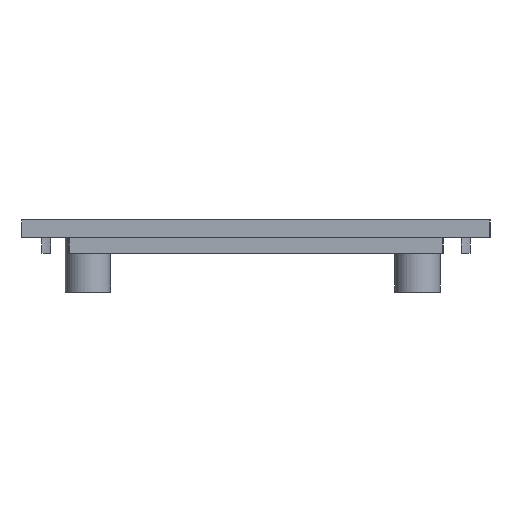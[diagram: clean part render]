
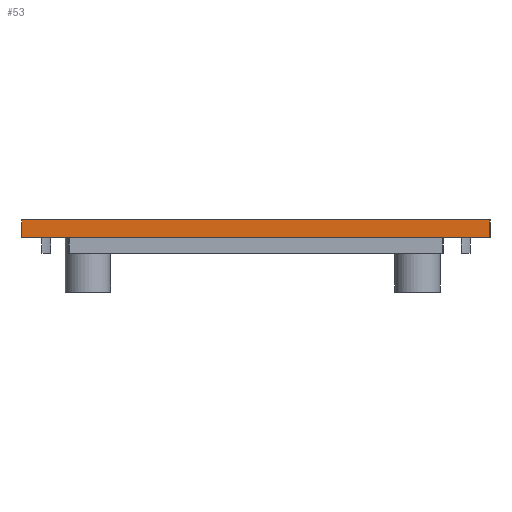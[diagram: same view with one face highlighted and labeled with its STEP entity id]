
A CAD part, left-side view. The second image highlights one B-rep face of the part: STEP entity #53.
In plain terms, the highlighted free-form (B-spline) face has degree [1, 1] with [2, 2] control points.
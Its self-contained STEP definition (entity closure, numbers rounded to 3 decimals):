
#21 = EDGE_CURVE('',#22,#24,#26,.T.);
#22 = VERTEX_POINT('',#23);
#23 = CARTESIAN_POINT('',(68.,-84.,34.));
#24 = VERTEX_POINT('',#25);
#25 = CARTESIAN_POINT('',(68.,-84.,36.8));
#26 = B_SPLINE_CURVE_WITH_KNOTS('',1,(#27,#28),.UNSPECIFIED.,.F.,.F.,(2,
    2),(0.,2.8),.PIECEWISE_BEZIER_KNOTS.);
#27 = CARTESIAN_POINT('',(68.,-84.,34.));
#28 = CARTESIAN_POINT('',(68.,-84.,36.8));
#53 = ADVANCED_FACE('',(#54),#76,.T.);
#54 = FACE_BOUND('',#55,.T.);
#55 = EDGE_LOOP('',(#56,#65,#70,#71));
#56 = ORIENTED_EDGE('',*,*,#57,.T.);
#57 = EDGE_CURVE('',#58,#60,#62,.T.);
#58 = VERTEX_POINT('',#59);
#59 = CARTESIAN_POINT('',(68.,-158.,34.));
#60 = VERTEX_POINT('',#61);
#61 = CARTESIAN_POINT('',(68.,-158.,36.8));
#62 = B_SPLINE_CURVE_WITH_KNOTS('',1,(#63,#64),.UNSPECIFIED.,.F.,.F.,(2,
    2),(0.,2.8),.PIECEWISE_BEZIER_KNOTS.);
#63 = CARTESIAN_POINT('',(68.,-158.,34.));
#64 = CARTESIAN_POINT('',(68.,-158.,36.8));
#65 = ORIENTED_EDGE('',*,*,#66,.T.);
#66 = EDGE_CURVE('',#60,#24,#67,.T.);
#67 = B_SPLINE_CURVE_WITH_KNOTS('',1,(#68,#69),.UNSPECIFIED.,.F.,.F.,(2,
    2),(0.,74.),.PIECEWISE_BEZIER_KNOTS.);
#68 = CARTESIAN_POINT('',(68.,-158.,36.8));
#69 = CARTESIAN_POINT('',(68.,-84.,36.8));
#70 = ORIENTED_EDGE('',*,*,#21,.F.);
#71 = ORIENTED_EDGE('',*,*,#72,.F.);
#72 = EDGE_CURVE('',#58,#22,#73,.T.);
#73 = B_SPLINE_CURVE_WITH_KNOTS('',1,(#74,#75),.UNSPECIFIED.,.F.,.F.,(2,
    2),(0.,74.),.PIECEWISE_BEZIER_KNOTS.);
#74 = CARTESIAN_POINT('',(68.,-158.,34.));
#75 = CARTESIAN_POINT('',(68.,-84.,34.));
#76 = B_SPLINE_SURFACE_WITH_KNOTS('',1,1,(
    (#77,#78)
    ,(#79,#80
  )),.UNSPECIFIED.,.F.,.F.,.F.,(2,2),(2,2),(0.,74.),(-2.8,0.),
  .PIECEWISE_BEZIER_KNOTS.);
#77 = CARTESIAN_POINT('',(68.,-158.,36.8));
#78 = CARTESIAN_POINT('',(68.,-158.,34.));
#79 = CARTESIAN_POINT('',(68.,-84.,36.8));
#80 = CARTESIAN_POINT('',(68.,-84.,34.));
